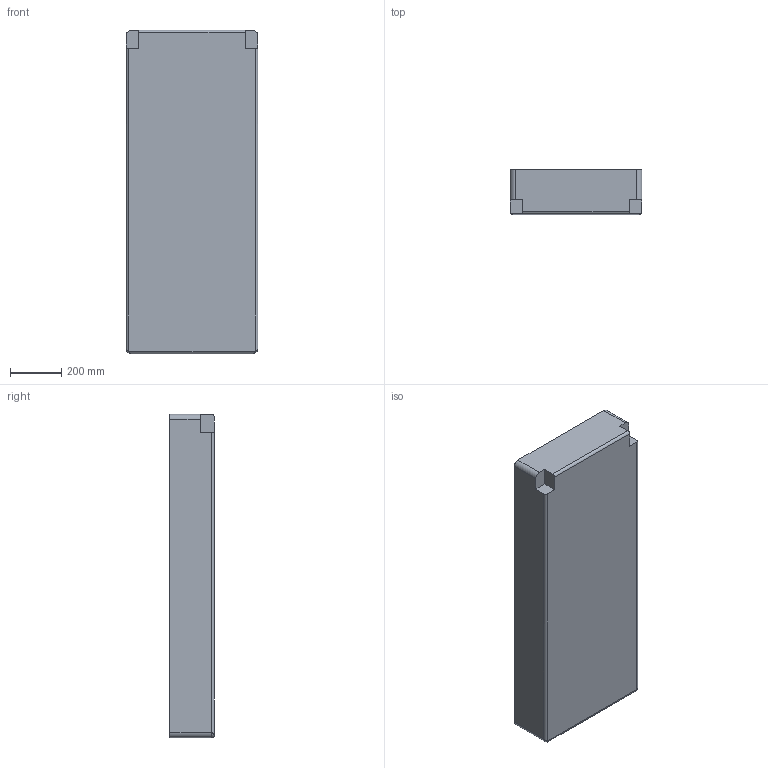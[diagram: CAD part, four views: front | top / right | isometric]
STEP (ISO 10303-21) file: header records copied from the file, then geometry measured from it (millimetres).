
FILE_DESCRIPTION(/* description */ ('VariCAD 2010-2.03 AP-203'),/* implementation_level */ '2;1');
FILE_NAME(/* name */ '0353-62-031',/* time_stamp */ '2010-07-25T14:59:47-06:00',/* author */ (''),/* organization */ (''),/* preprocessor_version */ 'ST-DEVELOPER v12',/* originating_system */ 'VariCAD 2010-2.03; kernel version (20100102)',/* authorisation */ '');
FILE_SCHEMA (('CONFIG_CONTROL_DESIGN'));
Length unit declared in the file: millimetre
Products named in the file (1): Part
Bounding box: 515 x 174 x 1265 mm (x, y, z)
Volume: 91177123.5 mm3; surface area: 2482175.7 mm2
Topology: 1 solids, 1 shells, 99 faces, 257 edges, 166 vertices
Faces by surface type: plane 77, cylinder 17, cone 3, bspline 2
Entity records: 3301 total; most frequent: CARTESIAN_POINT 834, ORIENTED_EDGE 510, DIRECTION 475, EDGE_CURVE 255, LINE 221, VECTOR 221, VERTEX_POINT 166, AXIS2_PLACEMENT_3D 127
